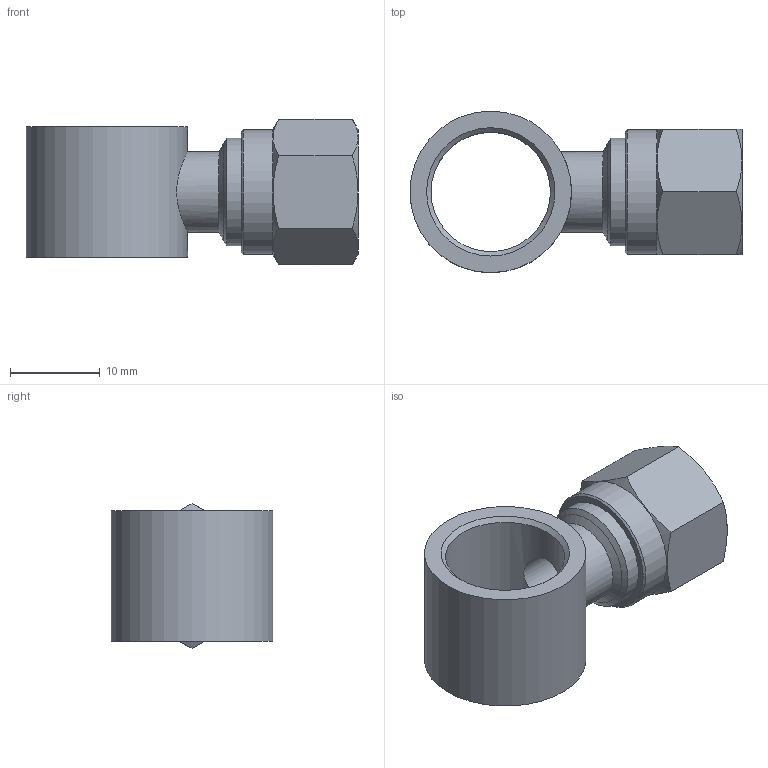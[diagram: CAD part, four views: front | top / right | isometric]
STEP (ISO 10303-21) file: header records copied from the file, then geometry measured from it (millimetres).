
FILE_DESCRIPTION(('Bauteilbeschreibung','HiCAD-Model','HiCAD-STEP-TRANSLATION','Bauteilbeschreibung'),'2;1');
FILE_NAME('B:/ABGLEICH/ZEICHNUNGEN/STEP FÜR INTERNET/STEP/216/95105_216_8_1-4.STP','2011-11-28T13:41:53+00:00',('Konstrukteur'),('Konstrukteur Firma GmbH'),' HiCAD neXt 2008, Step 3.1.1401.2J ','HiCAD neXt 2008','confidential');
FILE_SCHEMA(('AUTOMOTIVE_DESIGN { 1 2 10303 214 0 1 1 1 }'));
Length unit declared in the file: millimetre
Products named in the file (7): A5105_216_8_1_4; A5105; A51050; DIN 13_M12X1; A6803; A68030; DIN0130M12X1
Assembly tree (6 placements, depth 3):
  A5105_216_8_1_4
    A5105
    A51050
      DIN 13_M12X1
    A6803
    A68030
      DIN0130M12X1
Bounding box: 37 x 18 x 16.17 mm (x, y, z)
Volume: 3189.4 mm3; surface area: 4657.7 mm2
Topology: 4 solids, 4 shells, 46 faces, 98 edges, 61 vertices
Faces by surface type: cone 18, plane 15, cylinder 13
Full cylindrical faces by diameter (mm): 6 x1, 8 x2, 9 x1, 10.773 x3, 12 x3, 13.3 x1, 13.9 x1, 18 x1
Entity records: 2823 total; most frequent: CARTESIAN_POINT 1513, DIRECTION 198, ORIENTED_EDGE 128, AXIS2_PLACEMENT_3D 96, EDGE_LOOP 82, COLOUR_RGB 66, PRESENTATION_STYLE_ASSIGNMENT 66, EDGE_CURVE 64
